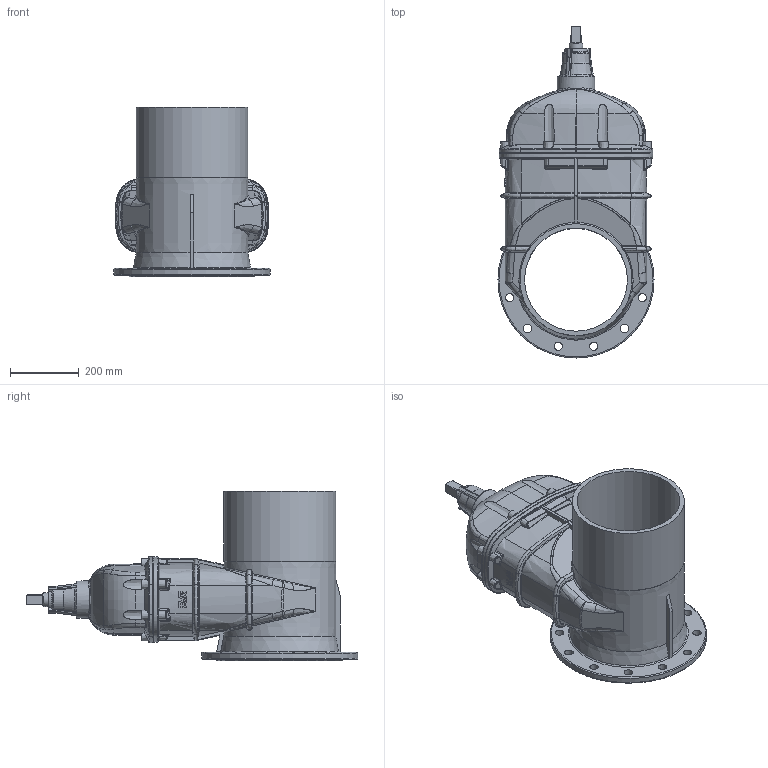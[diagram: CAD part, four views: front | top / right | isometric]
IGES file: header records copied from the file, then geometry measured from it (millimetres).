
Start section: SolidWorks IGES file using analytic representation for surfaces
Global section: file name: \\avksan2\techshare\PBM outline export from Enovia\O_12_51_DN300_AA1_igs.igs; native system: SolidWorks 2012; preprocessor: SolidWorks 2012; author: pbm; date: 151023.095316; units: millimetre
Bounding box: 455 x 967.4 x 494 mm (x, y, z)
Surface area: 1742421.4 mm2 (no closed solid volume)
Topology: 0 solids, 0 shells, 748 faces, 3827 edges, 3774 vertices
Faces by surface type: bspline 416, revolution 332
